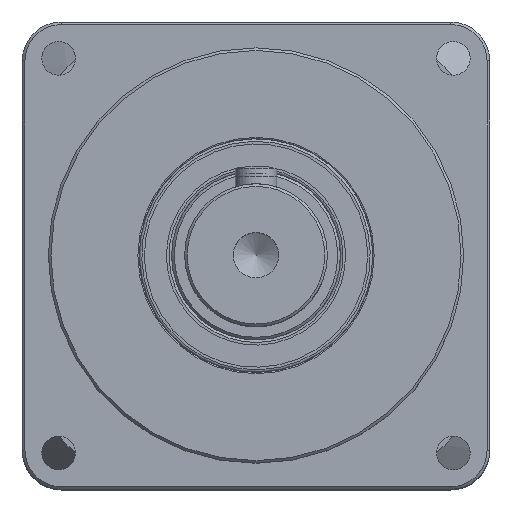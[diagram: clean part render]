
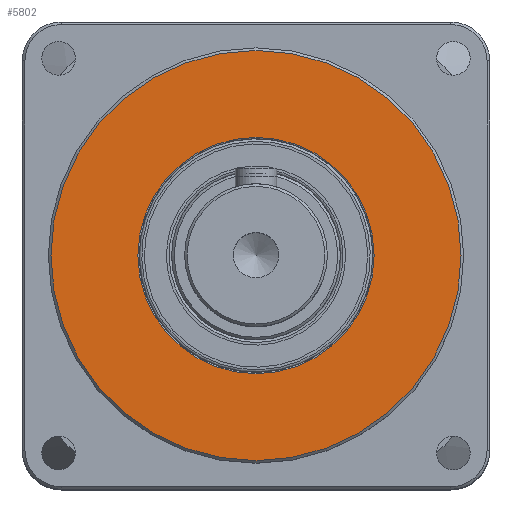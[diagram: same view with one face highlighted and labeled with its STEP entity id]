
A CAD part, top view. The second image highlights one B-rep face of the part: STEP entity #5802.
In plain terms, the highlighted planar face has unit normal (0, 0, 1).
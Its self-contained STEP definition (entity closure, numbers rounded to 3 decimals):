
#150 = VERTEX_POINT ( 'NONE', #7117 ) ;
#523 = VERTEX_POINT ( 'NONE', #7474 ) ;
#1211 = ORIENTED_EDGE ( 'NONE', *, *, #4640, .T. ) ;
#1945 = EDGE_LOOP ( 'NONE', ( #4100 ) ) ;
#2628 = DIRECTION ( 'NONE',  ( -1., 0., 0. ) ) ;
#2707 = AXIS2_PLACEMENT_3D ( 'NONE', #7305, #6518, #5709 ) ;
#3399 = CIRCLE ( 'NONE', #2707, 79. ) ;
#3430 = DIRECTION ( 'NONE',  ( 0., 0., -1. ) ) ;
#3552 = EDGE_CURVE ( 'NONE', #523, #523, #3399, .T. ) ;
#3651 = DIRECTION ( 'NONE',  ( 1., 0., 0. ) ) ;
#3719 = AXIS2_PLACEMENT_3D ( 'NONE', #4239, #3430, #2628 ) ;
#3843 = FACE_OUTER_BOUND ( 'NONE', #1945, .T. ) ;
#4100 = ORIENTED_EDGE ( 'NONE', *, *, #3552, .T. ) ;
#4239 = CARTESIAN_POINT ( 'NONE',  ( 0., 0., 181. ) ) ;
#4264 = FACE_BOUND ( 'NONE', #6839, .T. ) ;
#4435 = DIRECTION ( 'NONE',  ( 0., 0., 1. ) ) ;
#4640 = EDGE_CURVE ( 'NONE', #150, #150, #4683, .T. ) ;
#4683 = CIRCLE ( 'NONE', #3719, 45.5 ) ;
#5058 = AXIS2_PLACEMENT_3D ( 'NONE', #5242, #4435, #3651 ) ;
#5242 = CARTESIAN_POINT ( 'NONE',  ( 0., 0., 181. ) ) ;
#5709 = DIRECTION ( 'NONE',  ( 1., 0., 0. ) ) ;
#5802 = ADVANCED_FACE ( 'NONE', ( #3843, #4264 ), #6045, .T. ) ;
#6045 = PLANE ( 'NONE',  #5058 ) ;
#6518 = DIRECTION ( 'NONE',  ( 0., 0., 1. ) ) ;
#6839 = EDGE_LOOP ( 'NONE', ( #1211 ) ) ;
#7117 = CARTESIAN_POINT ( 'NONE',  ( -45.5, 0., 181. ) ) ;
#7305 = CARTESIAN_POINT ( 'NONE',  ( 0., 0., 181. ) ) ;
#7474 = CARTESIAN_POINT ( 'NONE',  ( 79., 0., 181. ) ) ;
